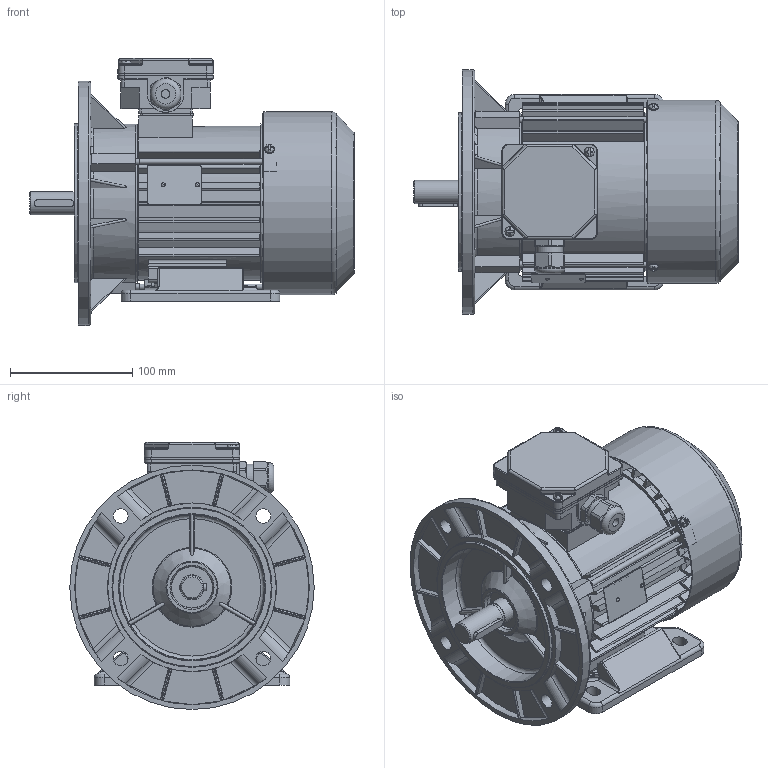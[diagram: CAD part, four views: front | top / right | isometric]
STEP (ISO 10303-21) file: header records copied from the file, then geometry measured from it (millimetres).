
FILE_DESCRIPTION( ( 'Unknown' ), '1' );
FILE_NAME( 'G:/Poczta Tk-1/STP/w.m.80/Sh80/SLh80-.A.stp', 'Unknown', ( 'K. Szlosek' ), ( 'BESEL S.A.' ), 'PSStep 17.0.49', 'Unknown', ' ' );
FILE_SCHEMA( ( 'AUTOMOTIVE_DESIGN { 1 0 10303 214 1 1 1 1 }' ) );
Length unit declared in the file: millimetre
Products named in the file (30): skrznka zaciskowa trójfazowa ; K4-2820 Uszczelka nr 2 Sh71,80; Dławnica M20x1,5; K2-0859 Podstawa skrzynki 6-cio zaciskowej; K2-0860 Pokrywka skrzynki zaciskowej; Assem1; K1-1257 Kadłub S(E,M)h80-A i B; K2-2027 Tarcza łożyskowa P S(E,M)h80-.A,C; K4-2320 Uszczelka nr 1 Sh71,80; Wkręt samogwintujący M4x16; Nitokołek A 2x6; Wkręt samogwintujący M4x8; K3-7038 wał standard Sh80-A; Wpust A6x6x32; K3-4025 Przewietrznik Sg,h80; K4-4489 Osłona przewietrznika Sh80,90-A,C; K1-1258  zmiana Tarcza kołnierzowa B5 SKh80-..; Tabliczka znamionowa 32x44; Łożysko 6204; Śruba ściągająca E_M5x130; K1-0437 Łapa Sh80-.. 
Assembly tree (45 placements, depth 3):
  Assem1
    K1-1257 Kadłub S(E,M)h80-A i B
    K2-2027 Tarcza łożyskowa P S(E,M)h80-.A,C
    K4-2320 Uszczelka nr 1 Sh71,80
    Wkręt samogwintujący M4x16  x2
    Nitokołek A 2x6  x2
    Wkręt samogwintujący M4x8  x3
    K3-7038 wał standard Sh80-A
    Wpust A6x6x32
    K3-4025 Przewietrznik Sg,h80
    K4-4489 Osłona przewietrznika Sh80,90-A,C
    K1-1258  zmiana Tarcza kołnierzowa B5 SKh80-..
    Tabliczka znamionowa 32x44
    Łożysko 6204  x2
    Łożysko 6204  x2
    Łożysko 6204  x2
    Łożysko 6204  x2
    Łożysko 6204  x2
    Łożysko 6204  x2
    Łożysko 6204  x2
    Łożysko 6204  x2
    Łożysko 6204  x2
    Łożysko 6204  x2
    Śruba ściągająca E_M5x130  x3
    K1-0437 Łapa Sh80-.. 
    skrznka zaciskowa trójfazowa 
      K4-2820 Uszczelka nr 2 Sh71,80
      Dławnica M20x1,5
      K2-0859 Podstawa skrzynki 6-cio zaciskowej
      K2-0860 Pokrywka skrzynki zaciskowej
Bounding box: 265.8 x 200 x 218.5 mm (x, y, z)
Volume: 1081563 mm3; surface area: 586996 mm2
Topology: 44 solids, 60 shells, 2615 faces, 7170 edges, 4615 vertices
Faces by surface type: plane 1284, cylinder 904, bspline 149, torus 138, cone 106, sphere 34
Full cylindrical faces by diameter (mm): 2 x2, 2.4 x2, 3 x1, 3.7 x11, 4 x5, 4.134 x3, 4.5 x1, 4.6 x3, 4.8 x4, 5 x7, 5.5 x3, 6.5 x4, 7 x1, 8 x9, 12 x4, 18.376 x1, 18.38 x1, 18.6 x1, 19 x1, 19.3 x1, 19.5 x2, 19.9 x1, 20 x5, 20.3 x2, 20.4 x4, 22.3 x1, 25 x1, 25.5 x1, 25.65 x1, 26 x3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
Entity records: 122753 total; most frequent: CARTESIAN_POINT 41468, ORIENTED_EDGE 12804, DIRECTION 12469, EDGE_CURVE 6402, AXIS2_PLACEMENT_3D 4515, VERTEX_POINT 4294, LINE 3439, VECTOR 3439
